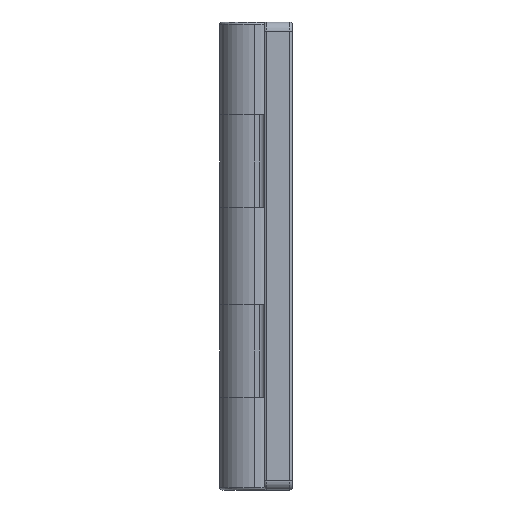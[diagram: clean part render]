
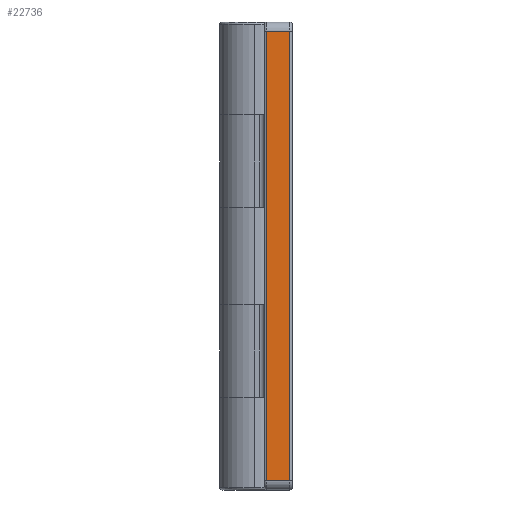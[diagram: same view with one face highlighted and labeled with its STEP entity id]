
A CAD part, left-side view. The second image highlights one B-rep face of the part: STEP entity #22736.
In plain terms, the highlighted planar face has unit normal (-1, 0, 0) as drawn and (1, 0, 0) by its records, which use the part's own axes.
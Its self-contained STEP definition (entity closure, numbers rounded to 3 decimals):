
#190 = EDGE_CURVE ( 'NONE', #21840, #7838, #11668, .T. ) ;
#475 = EDGE_CURVE ( 'NONE', #7838, #7488, #13788, .T. ) ;
#991 = DIRECTION ( 'NONE',  ( -1., 0., 0. ) ) ;
#3074 = CARTESIAN_POINT ( 'NONE',  ( 50., -7.5, 98. ) ) ;
#4414 = DIRECTION ( 'NONE',  ( 0., 1., 0. ) ) ;
#5173 = AXIS2_PLACEMENT_3D ( 'NONE', #32871, #991, #19619 ) ;
#5420 = VECTOR ( 'NONE', #16963, 1000. ) ;
#6066 = CARTESIAN_POINT ( 'NONE',  ( 50., -2.5, 98. ) ) ;
#6896 = LINE ( 'NONE', #23062, #27311 ) ;
#7089 = VERTEX_POINT ( 'NONE', #30439 ) ;
#7488 = VERTEX_POINT ( 'NONE', #3074 ) ;
#7642 = ORIENTED_EDGE ( 'NONE', *, *, #20342, .T. ) ;
#7838 = VERTEX_POINT ( 'NONE', #6066 ) ;
#7959 = CARTESIAN_POINT ( 'NONE',  ( 50., -7.5, 100. ) ) ;
#11091 = ORIENTED_EDGE ( 'NONE', *, *, #190, .T. ) ;
#11150 = VECTOR ( 'NONE', #18565, 1000. ) ;
#11668 = LINE ( 'NONE', #23467, #5420 ) ;
#11987 = LINE ( 'NONE', #7959, #11150 ) ;
#13788 = LINE ( 'NONE', #19907, #27078 ) ;
#16963 = DIRECTION ( 'NONE',  ( 0., 0., 1. ) ) ;
#17254 = DIRECTION ( 'NONE',  ( 0., -1., 0. ) ) ;
#17394 = ORIENTED_EDGE ( 'NONE', *, *, #475, .T. ) ;
#18565 = DIRECTION ( 'NONE',  ( 0., 0., -1. ) ) ;
#19619 = DIRECTION ( 'NONE',  ( 0., 0., 1. ) ) ;
#19907 = CARTESIAN_POINT ( 'NONE',  ( 50., -7.5, 98. ) ) ;
#20342 = EDGE_CURVE ( 'NONE', #7488, #7089, #11987, .T. ) ;
#21840 = VERTEX_POINT ( 'NONE', #30370 ) ;
#22012 = EDGE_CURVE ( 'NONE', #7089, #21840, #6896, .T. ) ;
#22736 = ADVANCED_FACE ( 'NONE', ( #31012 ), #30186, .F. ) ;
#23062 = CARTESIAN_POINT ( 'NONE',  ( 50., 0., 2. ) ) ;
#23467 = CARTESIAN_POINT ( 'NONE',  ( 50., -2.5, 100. ) ) ;
#27078 = VECTOR ( 'NONE', #17254, 1000. ) ;
#27311 = VECTOR ( 'NONE', #4414, 1000. ) ;
#27909 = EDGE_LOOP ( 'NONE', ( #17394, #7642, #31046, #11091 ) ) ;
#30186 = PLANE ( 'NONE',  #5173 ) ;
#30370 = CARTESIAN_POINT ( 'NONE',  ( 50., -2.5, 2. ) ) ;
#30439 = CARTESIAN_POINT ( 'NONE',  ( 50., -7.5, 2. ) ) ;
#31012 = FACE_OUTER_BOUND ( 'NONE', #27909, .T. ) ;
#31046 = ORIENTED_EDGE ( 'NONE', *, *, #22012, .T. ) ;
#32871 = CARTESIAN_POINT ( 'NONE',  ( 50., 0., 100. ) ) ;
